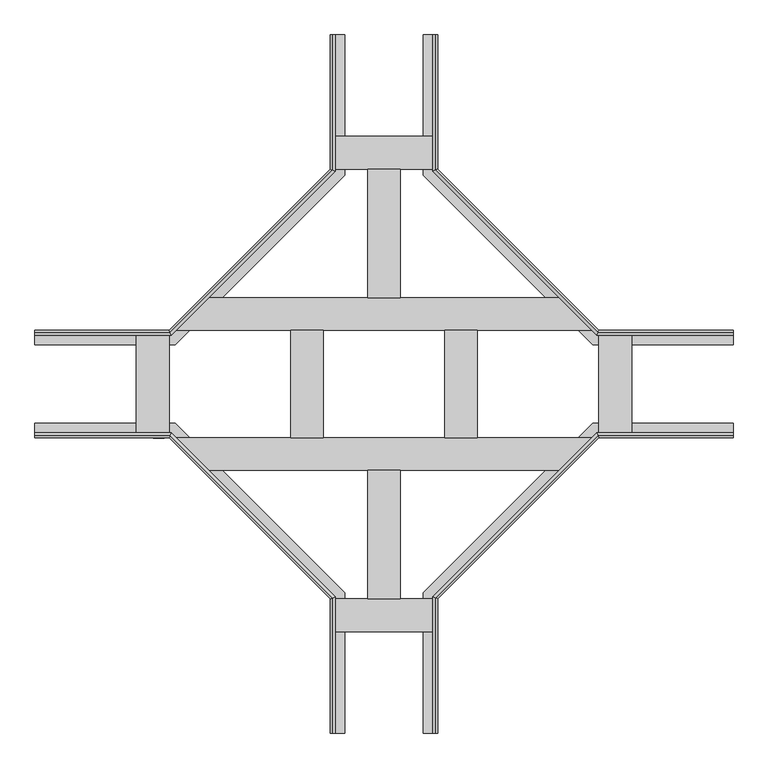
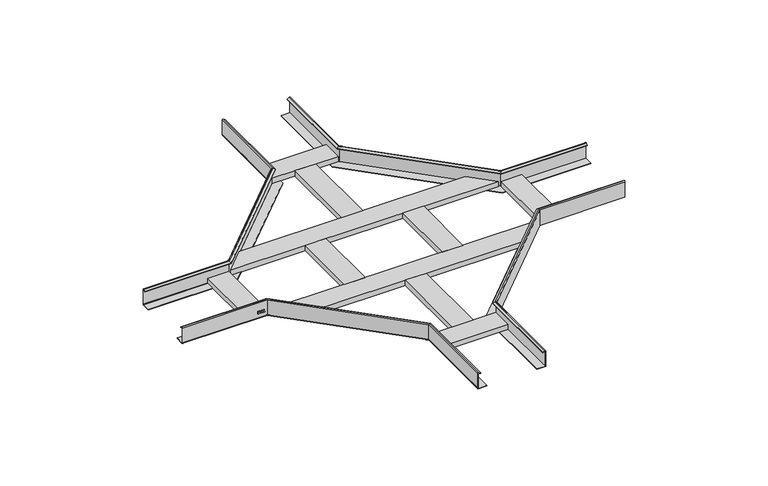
"""IFC4 building model written with IfcOpenShell, lengths in millimetres: cable carrier fitting geometry, КМ Профиль L X-Разветвитель «Быстрый монтаж» : X-Разветвитель «Быстрый монтаж»."""

from ifc_helpers import new_model, si_unit, frame, origin, place, context, project, spatial, polyline, circle_curve, ellipse_curve, outline, extrude, source, transform, mapped, element, save
from ifc_brep_helpers import plane_surface, cylinder_surface, revolved_surface, advanced_brep


def cable_carrier_fitting_a40b3fd0(model_context):
    return source(origin(), model_context, "Body", "SolidModel", [
        extrude(outline(polyline([(-1.986157, -429.2388781), (-9.737421, -429.2388781), (-9.737421, -425.6630512), (-6.5720802, -425.6630512), (-9.737421, -423.9588467), (-9.737421, -420.0604353), (-6.194034, -421.9277444), (-5.5086619, -424.1694955), (-1.986157, -421.703011), (-1.986157, -423.8289757), (-5.564509, -425.7316192), (-1.986157, -425.7316192), (-1.986157, -429.2388781)])), frame((0.0, -100.8, 0.0), z_axis=(0.0, 1.0, 0.0), x_axis=(0.0, 0.0, 1.0)), (0.0, 0.0, 1.0), 0.8),
        extrude(outline(polyline([(-9.737421, -417.9962759), (-5.0696135, -417.6126012), (-9.7434681, -416.2045824), (-9.7434681, -414.7300717), (-5.0541919, -413.2500032), (-9.7429915, -412.7725105), (-9.7429915, -408.8700699), (-1.9623682, -410.0615674), (-1.9623682, -413.2555223), (-5.0390232, -414.2768297), (-1.9647569, -415.0433304), (-1.9647569, -418.0740589), (-9.737421, -419.8943395), (-9.737421, -417.9962759)])), frame((0.0, -100.8, 0.0), z_axis=(0.0, 1.0, 0.0), x_axis=(0.0, 0.0, 1.0)), (0.0, 0.0, 1.0), 0.8),
        extrude(outline(polyline([(-400.0, -97.0), (-461.0, -97.0), (-461.0, 97.0), (-400.0, 97.0), (-400.0, -97.0)])), frame((0.0, 0.0, -23.5), z_axis=(0.0, 0.0, 1.0), x_axis=(1.0, 0.0, 0.0)), (0.0, 0.0, 1.0), 16.0),
        extrude(outline(polyline([(461.0, -97.0), (400.0, -97.0), (400.0, 97.0), (461.0, 97.0), (461.0, -97.0)])), frame((0.0, 0.0, -23.5), z_axis=(0.0, 0.0, 1.0), x_axis=(1.0, 0.0, 0.0)), (0.0, 0.0, 1.0), 16.0),
        extrude(outline(polyline([(-113.0, 100.0), (-113.0, -100.0), (-174.0, -100.0), (-174.0, 100.0), (-113.0, 100.0)])), frame((0.0, 0.0, -23.5), z_axis=(0.0, 0.0, 1.0), x_axis=(1.0, 0.0, 0.0)), (0.0, 0.0, 1.0), 16.0),
        extrude(outline(polyline([(113.0, -100.0), (113.0, 100.0), (174.0, 100.0), (174.0, -100.0), (113.0, -100.0)])), frame((0.0, 0.0, -23.5), z_axis=(0.0, 0.0, 1.0), x_axis=(1.0, 0.0, 0.0)), (0.0, 0.0, 1.0), 16.0),
        extrude(outline(polyline([(-30.5, 161.0), (-30.5, 400.0), (30.5, 400.0), (30.5, 161.0), (-30.5, 161.0)])), frame((0.0, 0.0, -23.5), z_axis=(0.0, 0.0, 1.0), x_axis=(1.0, 0.0, 0.0)), (0.0, 0.0, 1.0), 16.0),
        extrude(outline(polyline([(30.5, -161.0), (30.5, -400.0), (-30.5, -400.0), (-30.5, -161.0), (30.5, -161.0)])), frame((0.0, 0.0, -23.5), z_axis=(0.0, 0.0, 1.0), x_axis=(1.0, 0.0, 0.0)), (0.0, 0.0, 1.0), 16.0),
        extrude(outline(polyline([(331.9289322, 161.0), (392.9289322, 100.0), (-392.9289322, 100.0), (-331.9289322, 161.0), (331.9289322, 161.0)])), frame((0.0, 0.0, -23.5), z_axis=(0.0, 0.0, 1.0), x_axis=(1.0, 0.0, 0.0)), (0.0, 0.0, 1.0), 16.0),
        extrude(outline(polyline([(-97.0, -400.0), (97.0, -400.0), (97.0, -461.0), (-97.0, -461.0), (-97.0, -400.0)])), frame((0.0, 0.0, -23.5), z_axis=(0.0, 0.0, 1.0), x_axis=(1.0, 0.0, 0.0)), (0.0, 0.0, 1.0), 16.0),
        extrude(outline(polyline([(-97.0, 400.0), (-97.0, 461.0), (97.0, 461.0), (97.0, 400.0), (-97.0, 400.0)])), frame((0.0, 0.0, -23.5), z_axis=(0.0, 0.0, 1.0), x_axis=(1.0, 0.0, 0.0)), (0.0, 0.0, 1.0), 16.0),
        extrude(outline(polyline([(331.9289322, -161.0), (-331.9289322, -161.0), (-392.9289322, -100.0), (392.9289322, -100.0), (331.9289322, -161.0)])), frame((0.0, 0.0, -23.5), z_axis=(0.0, 0.0, 1.0), x_axis=(1.0, 0.0, 0.0)), (0.0, 0.0, 1.0), 16.0),
        advanced_brep(
        [(-97.5, 650.0, -23.5), (-73.0, 650.0, -23.5), (-73.0, 650.0, -25.0), (-97.8, 650.0, -25.0), (-100.0, 650.0, -22.8), (-100.0, 650.0, 22.8), (-96.7671626, 650.0, 24.7424847), (-91.0, 650.0, 21.67603), (-91.0, 650.0, 19.9771749), (-97.0305284, 650.0, 23.1836637), (-98.5, 650.0, 22.3007162), (-98.5, 650.0, -22.5), (-97.5, 398.9644661, -23.5), (-398.9644661, 97.5, -23.5), (-650.0, 97.5, -23.5), (-650.0, 73.0, -23.5), (-388.8162338, 73.0, -23.5), (-73.0, 388.8162338, -23.5), (-73.0, 388.8162338, -25.0), (-388.8162338, 73.0, -25.0), (-650.0, 73.0, -25.0), (-650.0, 97.8, -25.0), (-399.0887302, 97.8, -25.0), (-97.8, 399.0887302, -25.0), (-100.0, 400.0, -22.8), (-100.0, 400.0, 22.8), (-96.7671626, 398.6609149, 24.7424847), (-91.0, 396.2720779, 21.67603), (-91.0, 396.2720779, 19.9771749), (-97.0305284, 398.7700046, 23.1836637), (-98.5, 399.3786797, 22.3007162), (-98.5, 399.3786797, -22.5), (-400.0, 100.0, -22.8), (-400.0, 100.0, 22.8), (-398.6609149, 96.7671626, 24.7424847), (-396.2720779, 91.0, 21.67603), (-396.2720779, 91.0, 19.9771749), (-398.7700046, 97.0305284, 23.1836637), (-399.3786797, 98.5, 22.3007162), (-399.3786797, 98.5, -22.5), (-650.0, 98.5, -22.5), (-650.0, 98.5, 22.3007162), (-650.0, 97.0305284, 23.1836637), (-650.0, 91.0, 19.9771749), (-650.0, 91.0, 21.67603), (-650.0, 96.7671626, 24.7424847), (-650.0, 100.0, 22.8), (-650.0, 100.0, -22.8)],
        [
            (0, 1),
            (1, 2),
            (2, 3),
            (3, 4, circle_curve(frame((-97.8, 650.0, -22.8), z_axis=(0.0, 1.0, 0.0), x_axis=(1.0, 0.0, 0.0)), 2.2)),
            (4, 5),
            (5, 6, circle_curve(frame((-97.8, 650.0, 22.8), z_axis=(0.0, 1.0, 0.0), x_axis=(1.0, 0.0, 0.0)), 2.2)),
            (6, 7),
            (7, 8),
            (8, 9),
            (9, 10, circle_curve(frame((-97.5, 650.0, 22.3007162), z_axis=(0.0, -1.0, 0.0), x_axis=(1.0, 0.0, 0.0)), 1.0)),
            (10, 11),
            (11, 0, circle_curve(frame((-97.5, 650.0, -22.5), z_axis=(0.0, -1.0, 0.0), x_axis=(1.0, 0.0, 0.0)), 1.0)),
            (0, 12),
            (12, 13),
            (13, 14),
            (14, 15),
            (15, 16),
            (16, 17),
            (17, 1),
            (17, 18),
            (18, 2),
            (18, 19),
            (19, 20),
            (20, 21),
            (21, 22),
            (22, 23),
            (23, 3),
            (23, 24, ellipse_curve(frame((-97.8, 399.0887302, -22.8), z_axis=(0.38268343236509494, 0.9238795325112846, 0.0), x_axis=(-0.9238795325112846, 0.38268343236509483, 0.0)), 2.3812628, 2.2)),
            (24, 4),
            (24, 25),
            (25, 5),
            (25, 26, ellipse_curve(frame((-97.8, 399.0887302, 22.8), z_axis=(0.38268343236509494, 0.9238795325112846, 0.0), x_axis=(-0.9238795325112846, 0.38268343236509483, 0.0)), 2.3812628, 2.2)),
            (26, 6),
            (26, 27),
            (27, 7),
            (27, 28),
            (28, 8),
            (28, 29),
            (29, 9),
            (29, 30, ellipse_curve(frame((-97.5, 398.9644661, 22.3007162), z_axis=(-0.38268343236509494, -0.9238795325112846, 0.0), x_axis=(0.9238795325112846, -0.38268343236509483, 0.0)), 1.0823922, 1.0)),
            (30, 10),
            (30, 31),
            (31, 11),
            (31, 12, ellipse_curve(frame((-97.5, 398.9644661, -22.5), z_axis=(-0.38268343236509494, -0.9238795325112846, 0.0), x_axis=(0.9238795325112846, -0.38268343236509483, 0.0)), 1.0823922, 1.0)),
            (16, 19),
            (22, 32, ellipse_curve(frame((-399.0887302, 97.8, -22.8), z_axis=(0.923879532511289, 0.3826834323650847, 0.0), x_axis=(-0.3826834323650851, 0.9238795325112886, 0.0)), 2.3812628, 2.2)),
            (32, 24),
            (32, 33),
            (33, 25),
            (33, 34, ellipse_curve(frame((-399.0887302, 97.8, 22.8), z_axis=(0.923879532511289, 0.3826834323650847, 0.0), x_axis=(-0.3826834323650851, 0.9238795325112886, 0.0)), 2.3812628, 2.2)),
            (34, 26),
            (34, 35),
            (35, 27),
            (35, 36),
            (36, 28),
            (36, 37),
            (37, 29),
            (37, 38, ellipse_curve(frame((-398.9644661, 97.5, 22.3007162), z_axis=(-0.923879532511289, -0.3826834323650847, 0.0), x_axis=(0.3826834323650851, -0.9238795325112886, 0.0)), 1.0823922, 1.0)),
            (38, 30),
            (38, 39),
            (39, 31),
            (39, 13, ellipse_curve(frame((-398.9644661, 97.5, -22.5), z_axis=(-0.923879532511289, -0.3826834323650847, 0.0), x_axis=(0.3826834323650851, -0.9238795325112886, 0.0)), 1.0823922, 1.0)),
            (14, 40, circle_curve(frame((-650.0, 97.5, -22.5), z_axis=(1.0, 0.0, 0.0), x_axis=(0.0, -1.0, 0.0)), 1.0)),
            (40, 41),
            (41, 42, circle_curve(frame((-650.0, 97.5, 22.3007162), z_axis=(1.0, 0.0, 0.0), x_axis=(0.0, -1.0, 0.0)), 1.0)),
            (42, 43),
            (43, 44),
            (44, 45),
            (45, 46, circle_curve(frame((-650.0, 97.8, 22.8), z_axis=(-1.0, 0.0, 0.0), x_axis=(0.0, -1.0, 0.0)), 2.2)),
            (46, 47),
            (47, 21, circle_curve(frame((-650.0, 97.8, -22.8), z_axis=(-1.0, 0.0, 0.0), x_axis=(0.0, -1.0, 0.0)), 2.2)),
            (20, 15),
            (47, 32),
            (46, 33),
            (45, 34),
            (44, 35),
            (43, 36),
            (42, 37),
            (41, 38),
            (40, 39),
        ],
        [
            plane_surface(frame((-100.0, 650.0, 25.0), z_axis=(0.0, 1.0, 0.0), x_axis=(0.0, 0.0, 1.0))),
            plane_surface(frame((-97.5, 650.0, -23.5), z_axis=(0.0, 0.0, 1.0), x_axis=(0.0, -1.0, 0.0))),
            plane_surface(frame((-73.0, 650.0, -23.5), z_axis=(1.0, 0.0, 0.0), x_axis=(0.0, -1.0, 0.0))),
            plane_surface(frame((-73.0, 650.0, -25.0), z_axis=(0.0, 0.0, -1.0), x_axis=(0.0, -1.0, 0.0))),
            cylinder_surface(frame((-97.8, 650.0, -22.8), z_axis=(0.0, 1.0, 0.0), x_axis=(1.0, 0.0, 0.0)), 2.2),
            plane_surface(frame((-100.0, 650.0, -22.8), z_axis=(-1.0, 0.0, 0.0), x_axis=(0.0, -1.0, 0.0))),
            cylinder_surface(frame((-97.8, 650.0, 22.8), z_axis=(0.0, 1.0, 0.0), x_axis=(1.0, 0.0, 0.0)), 2.2),
            plane_surface(frame((-96.7671626, 650.0, 24.7424847), z_axis=(0.4694715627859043, 0.0, 0.8829475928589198), x_axis=(0.0, -1.0, 0.0))),
            plane_surface(frame((-91.0, 650.0, 21.67603), z_axis=(1.0, 0.0, 0.0), x_axis=(0.0, -1.0, 0.0))),
            plane_surface(frame((-91.0, 650.0, 19.9771749), z_axis=(-0.4694715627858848, 0.0, -0.8829475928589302), x_axis=(0.0, -1.0, 0.0))),
            revolved_surface(polyline([(-96.5, 398.55025253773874, 22.3007162), (-96.5, 650.0, 22.3007162)]), (-97.5, 650.0, 22.3007162), (0.0, -1.0, 0.0)),
            plane_surface(frame((-98.5, 650.0, 22.3007162), z_axis=(1.0, 0.0, 0.0), x_axis=(0.0, -1.0, 0.0))),
            revolved_surface(polyline([(-96.5, 398.55025253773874, -22.5), (-96.5, 650.0, -22.5)]), (-97.5, 650.0, -22.5), (0.0, -1.0, 0.0)),
            plane_surface(frame((-73.0, 388.8162338, -23.5), z_axis=(0.7071067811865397, -0.7071067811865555, 0.0), x_axis=(-0.7071067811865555, -0.7071067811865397, 0.0))),
            cylinder_surface(frame((-98.4443651, 398.4443651, -22.8), z_axis=(0.7071067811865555, 0.7071067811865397, 0.0), x_axis=(0.7071067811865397, -0.7071067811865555, 0.0)), 2.2),
            plane_surface(frame((-100.0, 400.0, -22.8), z_axis=(-0.7071067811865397, 0.7071067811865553, 0.0), x_axis=(-0.7071067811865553, -0.7071067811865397, 0.0))),
            cylinder_surface(frame((-98.4443651, 398.4443651, 22.8), z_axis=(0.7071067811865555, 0.7071067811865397, 0.0), x_axis=(0.7071067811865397, -0.7071067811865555, 0.0)), 2.2),
            plane_surface(frame((-96.7671626, 398.6609149, 24.7424847), z_axis=(0.3319665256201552, -0.33196652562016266, 0.8829475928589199), x_axis=(-0.7071067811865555, -0.7071067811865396, 0.0))),
            plane_surface(frame((-91.0, 396.2720779, 21.67603), z_axis=(0.7071067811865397, -0.7071067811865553, 0.0), x_axis=(-0.7071067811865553, -0.7071067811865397, 0.0))),
            plane_surface(frame((-91.0, 396.2720779, 19.9771749), z_axis=(-0.3319665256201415, 0.33196652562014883, -0.8829475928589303), x_axis=(-0.7071067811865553, -0.7071067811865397, 0.0))),
            revolved_surface(polyline([(-398.5502524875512, 96.49999995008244, 22.3007162), (-96.49999995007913, 398.55025248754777, 22.3007162)]), (-98.232233, 398.232233, 22.3007162), (-0.7071067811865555, -0.7071067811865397, 0.0)),
            plane_surface(frame((-98.5, 399.3786797, 22.3007162), z_axis=(0.7071067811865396, -0.7071067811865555, 0.0), x_axis=(-0.7071067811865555, -0.7071067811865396, 0.0))),
            revolved_surface(polyline([(-398.5502524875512, 96.49999995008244, -22.5), (-96.49999995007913, 398.55025248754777, -22.5)]), (-98.232233, 398.232233, -22.5), (-0.7071067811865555, -0.7071067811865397, 0.0)),
            plane_surface(frame((-650.0, 100.0, 25.0), z_axis=(-1.0, 0.0, 0.0), x_axis=(0.0, 0.0, 1.0))),
            plane_surface(frame((-388.8162338, 73.0, -23.5), z_axis=(0.0, -1.0, 0.0), x_axis=(-1.0, 0.0, 0.0))),
            cylinder_surface(frame((-400.0, 97.8, -22.8), z_axis=(1.0, 0.0, 0.0), x_axis=(0.0, -1.0, 0.0)), 2.2),
            plane_surface(frame((-400.0, 100.0, -22.8), z_axis=(0.0, 1.0, 0.0), x_axis=(-1.0, 0.0, 0.0))),
            cylinder_surface(frame((-400.0, 97.8, 22.8), z_axis=(1.0, 0.0, 0.0), x_axis=(0.0, -1.0, 0.0)), 2.2),
            plane_surface(frame((-398.6609149, 96.7671626, 24.7424847), z_axis=(0.0, -0.46947156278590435, 0.8829475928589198), x_axis=(-1.0, 0.0, 0.0))),
            plane_surface(frame((-396.2720779, 91.0, 21.67603), z_axis=(0.0, -1.0, 0.0), x_axis=(-1.0, 0.0, 0.0))),
            plane_surface(frame((-396.2720779, 91.0, 19.9771749), z_axis=(0.0, 0.46947156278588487, -0.8829475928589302), x_axis=(-1.0, 0.0, 0.0))),
            revolved_surface(polyline([(-650.0, 96.5, 22.3007162), (-398.5502525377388, 96.5, 22.3007162)]), (-400.0, 97.5, 22.3007162), (-1.0, 0.0, 0.0)),
            plane_surface(frame((-399.3786797, 98.5, 22.3007162), z_axis=(0.0, -1.0, 0.0), x_axis=(-1.0, 0.0, 0.0))),
            revolved_surface(polyline([(-650.0, 96.5, -22.5), (-398.5502525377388, 96.5, -22.5)]), (-400.0, 97.5, -22.5), (-1.0, 0.0, 0.0)),
        ],
        [
            (0, [[1, 2, 3, 4, 5, 6, 7, 8, 9, 10, 11, 12]]),
            (1, [[-1, 13, 14, 15, 16, 17, 18, 19]]),
            (2, [[-2, -19, 20, 21]]),
            (3, [[-3, -21, 22, 23, 24, 25, 26, 27]]),
            (4, [[-4, -27, 28, 29]]),
            (5, [[-5, -29, 30, 31]]),
            (6, [[-6, -31, 32, 33]]),
            (7, [[-7, -33, 34, 35]]),
            (8, [[-8, -35, 36, 37]]),
            (9, [[-9, -37, 38, 39]]),
            (10, [[-10, -39, 40, 41]]),
            (11, [[-11, -41, 42, 43]]),
            (12, [[-12, -43, 44, -13]]),
            (13, [[-20, -18, 45, -22]]),
            (14, [[-28, -26, 46, 47]]),
            (15, [[-30, -47, 48, 49]]),
            (16, [[-32, -49, 50, 51]]),
            (17, [[-34, -51, 52, 53]]),
            (18, [[-36, -53, 54, 55]]),
            (19, [[-38, -55, 56, 57]]),
            (20, [[-40, -57, 58, 59]]),
            (21, [[-42, -59, 60, 61]]),
            (22, [[-44, -61, 62, -14]]),
            (23, [[63, 64, 65, 66, 67, 68, 69, 70, 71, -24, 72, -16]]),
            (24, [[-45, -17, -72, -23]]),
            (25, [[-46, -25, -71, 73]]),
            (26, [[-48, -73, -70, 74]]),
            (27, [[-50, -74, -69, 75]]),
            (28, [[-52, -75, -68, 76]]),
            (29, [[-54, -76, -67, 77]]),
            (30, [[-56, -77, -66, 78]]),
            (31, [[-58, -78, -65, 79]]),
            (32, [[-60, -79, -64, 80]]),
            (33, [[-62, -80, -63, -15]]),
        ],
    ),
        advanced_brep(
        [(650.0, 97.0305284, 23.1836637), (650.0, 98.5, 22.3007162), (650.0, 98.5, -23.5), (650.0, 73.0, -23.5), (650.0, 73.0, -25.0), (650.0, 100.0, -25.0), (650.0, 100.0, 22.8), (650.0, 96.7671626, 24.7424847), (650.0, 91.0, 21.67603), (650.0, 91.0, 19.9771749), (398.7700046, 97.0305284, 23.1836637), (399.3786797, 98.5, 22.3007162), (399.3786797, 98.5, -23.5), (98.5, 399.3786797, -23.5), (98.5, 650.0, -23.5), (73.0, 650.0, -23.5), (73.0, 388.8162338, -23.5), (388.8162338, 73.0, -23.5), (388.8162338, 73.0, -25.0), (73.0, 388.8162338, -25.0), (73.0, 650.0, -25.0), (100.0, 650.0, -25.0), (100.0, 400.0, -25.0), (400.0, 100.0, -25.0), (400.0, 100.0, 22.8), (398.6609149, 96.7671626, 24.7424847), (396.2720779, 91.0, 21.67603), (396.2720779, 91.0, 19.9771749), (97.0305284, 398.7700046, 23.1836637), (98.5, 399.3786797, 22.3007162), (100.0, 400.0, 22.8), (96.7671626, 398.6609149, 24.7424847), (91.0, 396.2720779, 21.67603), (91.0, 396.2720779, 19.9771749), (97.0305284, 650.0, 23.1836637), (91.0, 650.0, 19.9771749), (91.0, 650.0, 21.67603), (96.7671626, 650.0, 24.7424847), (100.0, 650.0, 22.8), (98.5, 650.0, 22.3007162)],
        [
            (0, 1, circle_curve(frame((650.0, 97.5, 22.3007162), z_axis=(-1.0, 0.0, 0.0), x_axis=(0.0, -1.0, 0.0)), 1.0)),
            (1, 2),
            (2, 3),
            (3, 4),
            (4, 5),
            (5, 6),
            (6, 7, circle_curve(frame((650.0, 97.8, 22.8), z_axis=(1.0, 0.0, 0.0), x_axis=(0.0, -1.0, 0.0)), 2.2)),
            (7, 8),
            (8, 9),
            (9, 0),
            (0, 10),
            (10, 11, ellipse_curve(frame((398.9644661, 97.5, 22.3007162), z_axis=(-0.9238795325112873, 0.3826834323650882, 0.0), x_axis=(-0.38268343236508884, -0.9238795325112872, 0.0)), 1.0823922, 1.0)),
            (11, 1),
            (11, 12),
            (12, 2),
            (12, 13),
            (13, 14),
            (14, 15),
            (15, 16),
            (16, 17),
            (17, 3),
            (17, 18),
            (18, 4),
            (18, 19),
            (19, 20),
            (20, 21),
            (21, 22),
            (22, 23),
            (23, 5),
            (23, 24),
            (24, 6),
            (24, 25, ellipse_curve(frame((399.0887302, 97.8, 22.8), z_axis=(0.9238795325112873, -0.3826834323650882, 0.0), x_axis=(0.38268343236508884, 0.9238795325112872, 0.0)), 2.3812628, 2.2)),
            (25, 7),
            (25, 26),
            (26, 8),
            (26, 27),
            (27, 9),
            (27, 10),
            (10, 28),
            (28, 29, ellipse_curve(frame((97.5, 398.9644661, 22.3007162), z_axis=(-0.38268343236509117, 0.9238795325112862, 0.0), x_axis=(-0.9238795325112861, -0.3826834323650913, 0.0)), 1.0823922, 1.0)),
            (29, 11),
            (29, 13),
            (16, 19),
            (22, 30),
            (30, 24),
            (30, 31, ellipse_curve(frame((97.8, 399.0887302, 22.8), z_axis=(0.38268343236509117, -0.9238795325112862, 0.0), x_axis=(0.9238795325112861, 0.3826834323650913, 0.0)), 2.3812628, 2.2)),
            (31, 25),
            (31, 32),
            (32, 26),
            (32, 33),
            (33, 27),
            (33, 28),
            (34, 35),
            (35, 36),
            (36, 37),
            (37, 38, circle_curve(frame((97.8, 650.0, 22.8), z_axis=(0.0, 1.0, 0.0), x_axis=(-1.0, 0.0, 0.0)), 2.2)),
            (38, 21),
            (20, 15),
            (14, 39),
            (39, 34, circle_curve(frame((97.5, 650.0, 22.3007162), z_axis=(0.0, -1.0, 0.0), x_axis=(-1.0, 0.0, 0.0)), 1.0)),
            (28, 34),
            (39, 29),
            (38, 30),
            (37, 31),
            (36, 32),
            (35, 33),
        ],
        [
            plane_surface(frame((650.0, 100.0, 25.0), z_axis=(1.0, 0.0, 0.0), x_axis=(0.0, 0.0, 1.0))),
            revolved_surface(polyline([(398.55025253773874, 96.5, 22.3007162), (650.0, 96.5, 22.3007162)]), (650.0, 97.5, 22.3007162), (-1.0, 0.0, 0.0)),
            plane_surface(frame((650.0, 98.5, 22.3007162), z_axis=(0.0, -1.0, 0.0), x_axis=(-1.0, 0.0, 0.0))),
            plane_surface(frame((650.0, 98.5, -23.5), z_axis=(0.0, 0.0, 1.0), x_axis=(-1.0, 0.0, 0.0))),
            plane_surface(frame((650.0, 73.0, -23.5), z_axis=(0.0, -1.0, 0.0), x_axis=(-1.0, 0.0, 0.0))),
            plane_surface(frame((650.0, 73.0, -25.0), z_axis=(0.0, 0.0, -1.0), x_axis=(-1.0, 0.0, 0.0))),
            plane_surface(frame((650.0, 100.0, -25.0), z_axis=(0.0, 1.0, 0.0), x_axis=(-1.0, 0.0, 0.0))),
            cylinder_surface(frame((650.0, 97.8, 22.8), z_axis=(1.0, 0.0, 0.0), x_axis=(0.0, -1.0, 0.0)), 2.2),
            plane_surface(frame((650.0, 96.7671626, 24.7424847), z_axis=(0.0, -0.46947156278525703, 0.8829475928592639), x_axis=(-1.0, 0.0, 0.0))),
            plane_surface(frame((650.0, 91.0, 21.67603), z_axis=(0.0, -1.0, 0.0), x_axis=(-1.0, 0.0, 0.0))),
            plane_surface(frame((650.0, 91.0, 19.9771749), z_axis=(0.0, 0.4694715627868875, -0.882947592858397), x_axis=(-1.0, 0.0, 0.0))),
            revolved_surface(polyline([(96.49999995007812, 398.55025248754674, 22.3007162), (398.55025248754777, 96.49999995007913, 22.3007162)]), (398.232233, 98.232233, 22.3007162), (-0.7071067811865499, 0.7071067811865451, 0.0)),
            plane_surface(frame((399.3786797, 98.5, 22.3007162), z_axis=(-0.707106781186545, -0.7071067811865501, 0.0), x_axis=(-0.7071067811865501, 0.707106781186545, 0.0))),
            plane_surface(frame((388.8162338, 73.0, -23.5), z_axis=(-0.707106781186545, -0.7071067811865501, 0.0), x_axis=(-0.7071067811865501, 0.707106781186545, 0.0))),
            plane_surface(frame((400.0, 100.0, -25.0), z_axis=(0.707106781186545, 0.7071067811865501, 0.0), x_axis=(-0.7071067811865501, 0.707106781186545, 0.0))),
            cylinder_surface(frame((398.4443651, 98.4443651, 22.8), z_axis=(0.7071067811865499, -0.7071067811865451, 0.0), x_axis=(-0.7071067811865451, -0.7071067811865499, 0.0)), 2.2),
            plane_surface(frame((398.6609149, 96.7671626, 24.7424847), z_axis=(-0.3319665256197, -0.3319665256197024, 0.882947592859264), x_axis=(-0.7071067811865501, 0.707106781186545, 0.0))),
            plane_surface(frame((396.2720779, 91.0, 21.67603), z_axis=(-0.707106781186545, -0.70710678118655, 0.0), x_axis=(-0.70710678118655, 0.707106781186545, 0.0))),
            plane_surface(frame((396.2720779, 91.0, 19.9771749), z_axis=(0.331966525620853, 0.3319665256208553, -0.882947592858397), x_axis=(-0.70710678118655, 0.707106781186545, 0.0))),
            plane_surface(frame((100.0, 650.0, 25.0), z_axis=(0.0, 1.0, 0.0), x_axis=(0.0, 0.0, 1.0))),
            revolved_surface(polyline([(96.5, 650.0, 22.3007162), (96.5, 398.5502525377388, 22.3007162)]), (97.5, 400.0, 22.3007162), (0.0, 1.0, 0.0)),
            plane_surface(frame((98.5, 399.3786797, 22.3007162), z_axis=(-1.0, 0.0, 0.0), x_axis=(0.0, 1.0, 0.0))),
            plane_surface(frame((73.0, 388.8162338, -23.5), z_axis=(-1.0, 0.0, 0.0), x_axis=(0.0, 1.0, 0.0))),
            plane_surface(frame((100.0, 400.0, -25.0), z_axis=(1.0, 0.0, 0.0), x_axis=(0.0, 1.0, 0.0))),
            cylinder_surface(frame((97.8, 400.0, 22.8), z_axis=(0.0, -1.0, 0.0), x_axis=(-1.0, 0.0, 0.0)), 2.2),
            plane_surface(frame((96.7671626, 398.6609149, 24.7424847), z_axis=(-0.46947156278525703, 0.0, 0.882947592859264), x_axis=(0.0, 1.0, 0.0))),
            plane_surface(frame((91.0, 396.2720779, 21.67603), z_axis=(-1.0, 0.0, 0.0), x_axis=(0.0, 1.0, 0.0))),
            plane_surface(frame((91.0, 396.2720779, 19.9771749), z_axis=(0.4694715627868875, 0.0, -0.882947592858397), x_axis=(0.0, 1.0, 0.0))),
        ],
        [
            (0, [[1, 2, 3, 4, 5, 6, 7, 8, 9, 10]]),
            (1, [[-1, 11, 12, 13]]),
            (2, [[-2, -13, 14, 15]]),
            (3, [[-3, -15, 16, 17, 18, 19, 20, 21]]),
            (4, [[-4, -21, 22, 23]]),
            (5, [[-5, -23, 24, 25, 26, 27, 28, 29]]),
            (6, [[-6, -29, 30, 31]]),
            (7, [[-7, -31, 32, 33]]),
            (8, [[-8, -33, 34, 35]]),
            (9, [[-9, -35, 36, 37]]),
            (10, [[-10, -37, 38, -11]]),
            (11, [[-12, 39, 40, 41]]),
            (12, [[-14, -41, 42, -16]]),
            (13, [[-22, -20, 43, -24]]),
            (14, [[-30, -28, 44, 45]]),
            (15, [[-32, -45, 46, 47]]),
            (16, [[-34, -47, 48, 49]]),
            (17, [[-36, -49, 50, 51]]),
            (18, [[-38, -51, 52, -39]]),
            (19, [[53, 54, 55, 56, 57, -26, 58, -18, 59, 60]]),
            (20, [[-40, 61, -60, 62]]),
            (21, [[-42, -62, -59, -17]]),
            (22, [[-43, -19, -58, -25]]),
            (23, [[-44, -27, -57, 63]]),
            (24, [[-46, -63, -56, 64]]),
            (25, [[-48, -64, -55, 65]]),
            (26, [[-50, -65, -54, 66]]),
            (27, [[-52, -66, -53, -61]]),
        ],
    ),
        advanced_brep(
        [(73.0, -650.0, -25.0), (100.0, -650.0, -25.0), (100.0, -650.0, 22.8), (96.7671626, -650.0, 24.7424847), (91.0, -650.0, 21.67603), (91.0, -650.0, 19.9771749), (97.0305284, -650.0, 23.1836637), (98.5, -650.0, 22.3007162), (98.5, -650.0, -23.5), (73.0, -650.0, -23.5), (73.0, -388.8162338, -25.0), (388.8162338, -73.0, -25.0), (650.0, -73.0, -25.0), (650.0, -100.0, -25.0), (400.0, -100.0, -25.0), (100.0, -400.0, -25.0), (100.0, -400.0, 22.8), (96.7671626, -398.6609149, 24.7424847), (91.0, -396.2720779, 21.67603), (91.0, -396.2720779, 19.9771749), (97.0305284, -398.7700046, 23.1836637), (98.5, -399.3786797, 22.3007162), (98.5, -399.3786797, -23.5), (399.3786797, -98.5, -23.5), (650.0, -98.5, -23.5), (650.0, -73.0, -23.5), (388.8162338, -73.0, -23.5), (73.0, -388.8162338, -23.5), (400.0, -100.0, 22.8), (398.6609149, -96.7671626, 24.7424847), (396.2720779, -91.0, 21.67603), (396.2720779, -91.0, 19.9771749), (398.7700046, -97.0305284, 23.1836637), (399.3786797, -98.5, 22.3007162), (650.0, -98.5, 22.3007162), (650.0, -97.0305284, 23.1836637), (650.0, -91.0, 19.9771749), (650.0, -91.0, 21.67603), (650.0, -96.7671626, 24.7424847), (650.0, -100.0, 22.8)],
        [
            (0, 1),
            (1, 2),
            (2, 3, circle_curve(frame((97.8, -650.0, 22.8), z_axis=(0.0, -1.0, 0.0), x_axis=(-1.0, 0.0, 0.0)), 2.2)),
            (3, 4),
            (4, 5),
            (5, 6),
            (6, 7, circle_curve(frame((97.5, -650.0, 22.3007162), z_axis=(0.0, 1.0, 0.0), x_axis=(-1.0, 0.0, 0.0)), 1.0)),
            (7, 8),
            (8, 9),
            (9, 0),
            (0, 10),
            (10, 11),
            (11, 12),
            (12, 13),
            (13, 14),
            (14, 15),
            (15, 1),
            (15, 16),
            (16, 2),
            (16, 17, ellipse_curve(frame((97.8, -399.0887302, 22.8), z_axis=(-0.38268343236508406, -0.9238795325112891, 0.0), x_axis=(0.9238795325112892, -0.3826834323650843, 0.0)), 2.3812628, 2.2)),
            (17, 3),
            (17, 18),
            (18, 4),
            (18, 19),
            (19, 5),
            (19, 20),
            (20, 6),
            (20, 21, ellipse_curve(frame((97.5, -398.9644661, 22.3007162), z_axis=(0.38268343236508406, 0.9238795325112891, 0.0), x_axis=(-0.9238795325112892, 0.3826834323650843, 0.0)), 1.0823922, 1.0)),
            (21, 7),
            (21, 22),
            (22, 8),
            (22, 23),
            (23, 24),
            (24, 25),
            (25, 26),
            (26, 27),
            (27, 9),
            (27, 10),
            (14, 28),
            (28, 16),
            (28, 29, ellipse_curve(frame((399.0887302, -97.8, 22.8), z_axis=(-0.9238795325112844, -0.38268343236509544, 0.0), x_axis=(0.3826834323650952, -0.9238795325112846, 0.0)), 2.3812628, 2.2)),
            (29, 17),
            (29, 30),
            (30, 18),
            (30, 31),
            (31, 19),
            (31, 32),
            (32, 20),
            (32, 33, ellipse_curve(frame((398.9644661, -97.5, 22.3007162), z_axis=(0.9238795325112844, 0.38268343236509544, 0.0), x_axis=(-0.3826834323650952, 0.9238795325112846, 0.0)), 1.0823922, 1.0)),
            (33, 21),
            (33, 23),
            (26, 11),
            (12, 25),
            (24, 34),
            (34, 35, circle_curve(frame((650.0, -97.5, 22.3007162), z_axis=(-1.0, 0.0, 0.0), x_axis=(0.0, 1.0, 0.0)), 1.0)),
            (35, 36),
            (36, 37),
            (37, 38),
            (38, 39, circle_curve(frame((650.0, -97.8, 22.8), z_axis=(1.0, 0.0, 0.0), x_axis=(0.0, 1.0, 0.0)), 2.2)),
            (39, 13),
            (39, 28),
            (38, 29),
            (37, 30),
            (36, 31),
            (35, 32),
            (34, 33),
        ],
        [
            plane_surface(frame((100.0, -650.0, 25.0), z_axis=(0.0, -1.0, 0.0), x_axis=(0.0, 0.0, 1.0))),
            plane_surface(frame((73.0, -650.0, -25.0), z_axis=(0.0, 0.0, -1.0), x_axis=(0.0, 1.0, 0.0))),
            plane_surface(frame((100.0, -650.0, -25.0), z_axis=(1.0, 0.0, 0.0), x_axis=(0.0, 1.0, 0.0))),
            cylinder_surface(frame((97.8, -650.0, 22.8), z_axis=(0.0, -1.0, 0.0), x_axis=(-1.0, 0.0, 0.0)), 2.2),
            plane_surface(frame((96.7671626, -650.0, 24.7424847), z_axis=(-0.46947156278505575, 0.0, 0.882947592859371), x_axis=(0.0, 1.0, 0.0))),
            plane_surface(frame((91.0, -650.0, 21.67603), z_axis=(-1.0, 0.0, 0.0), x_axis=(0.0, 1.0, 0.0))),
            plane_surface(frame((91.0, -650.0, 19.9771749), z_axis=(0.46947156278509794, 0.0, -0.8829475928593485), x_axis=(0.0, 1.0, 0.0))),
            revolved_surface(polyline([(96.5, -398.5502525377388, 22.3007162), (96.5, -650.0, 22.3007162)]), (97.5, -650.0, 22.3007162), (0.0, 1.0, 0.0)),
            plane_surface(frame((98.5, -650.0, 22.3007162), z_axis=(-1.0, 0.0, 0.0), x_axis=(0.0, 1.0, 0.0))),
            plane_surface(frame((98.5, -650.0, -23.5), z_axis=(0.0, 0.0, 1.0), x_axis=(0.0, 1.0, 0.0))),
            plane_surface(frame((73.0, -650.0, -23.5), z_axis=(-1.0, 0.0, 0.0), x_axis=(0.0, 1.0, 0.0))),
            plane_surface(frame((100.0, -400.0, -25.0), z_axis=(0.7071067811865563, -0.7071067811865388, 0.0), x_axis=(0.7071067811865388, 0.7071067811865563, 0.0))),
            cylinder_surface(frame((98.4443651, -398.4443651, 22.8), z_axis=(-0.7071067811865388, -0.7071067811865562, 0.0), x_axis=(-0.7071067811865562, 0.7071067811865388, 0.0)), 2.2),
            plane_surface(frame((96.7671626, -398.6609149, 24.7424847), z_axis=(-0.331966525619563, 0.3319665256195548, 0.882947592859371), x_axis=(0.7071067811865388, 0.7071067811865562, 0.0))),
            plane_surface(frame((91.0, -396.2720779, 21.67603), z_axis=(-0.7071067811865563, 0.7071067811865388, 0.0), x_axis=(0.7071067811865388, 0.7071067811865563, 0.0))),
            plane_surface(frame((91.0, -396.2720779, 19.9771749), z_axis=(0.3319665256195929, -0.3319665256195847, -0.8829475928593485), x_axis=(0.7071067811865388, 0.7071067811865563, 0.0))),
            revolved_surface(polyline([(398.55025248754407, -96.49999995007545, 22.3007162), (96.49999995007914, -398.55025248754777, 22.3007162)]), (98.232233, -398.232233, 22.3007162), (0.7071067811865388, 0.7071067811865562, 0.0)),
            plane_surface(frame((98.5, -399.3786797, 22.3007162), z_axis=(-0.7071067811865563, 0.7071067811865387, 0.0), x_axis=(0.7071067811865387, 0.7071067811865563, 0.0))),
            plane_surface(frame((73.0, -388.8162338, -23.5), z_axis=(-0.7071067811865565, 0.7071067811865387, 0.0), x_axis=(0.7071067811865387, 0.7071067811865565, 0.0))),
            plane_surface(frame((650.0, -100.0, 25.0), z_axis=(1.0, 0.0, 0.0), x_axis=(0.0, 0.0, 1.0))),
            plane_surface(frame((400.0, -100.0, -25.0), z_axis=(0.0, -1.0, 0.0), x_axis=(1.0, 0.0, 0.0))),
            cylinder_surface(frame((400.0, -97.8, 22.8), z_axis=(-1.0, 0.0, 0.0), x_axis=(0.0, 1.0, 0.0)), 2.2),
            plane_surface(frame((398.6609149, -96.7671626, 24.7424847), z_axis=(0.0, 0.46947156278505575, 0.882947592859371), x_axis=(1.0, 0.0, 0.0))),
            plane_surface(frame((396.2720779, -91.0, 21.67603), z_axis=(0.0, 1.0, 0.0), x_axis=(1.0, 0.0, 0.0))),
            plane_surface(frame((396.2720779, -91.0, 19.9771749), z_axis=(0.0, -0.46947156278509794, -0.8829475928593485), x_axis=(1.0, 0.0, 0.0))),
            revolved_surface(polyline([(650.0, -96.5, 22.3007162), (398.5502525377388, -96.5, 22.3007162)]), (400.0, -97.5, 22.3007162), (1.0, 0.0, 0.0)),
            plane_surface(frame((399.3786797, -98.5, 22.3007162), z_axis=(0.0, 1.0, 0.0), x_axis=(1.0, 0.0, 0.0))),
            plane_surface(frame((388.8162338, -73.0, -23.5), z_axis=(0.0, 1.0, 0.0), x_axis=(1.0, 0.0, 0.0))),
        ],
        [
            (0, [[1, 2, 3, 4, 5, 6, 7, 8, 9, 10]]),
            (1, [[-1, 11, 12, 13, 14, 15, 16, 17]]),
            (2, [[-2, -17, 18, 19]]),
            (3, [[-3, -19, 20, 21]]),
            (4, [[-4, -21, 22, 23]]),
            (5, [[-5, -23, 24, 25]]),
            (6, [[-6, -25, 26, 27]]),
            (7, [[-7, -27, 28, 29]]),
            (8, [[-8, -29, 30, 31]]),
            (9, [[-9, -31, 32, 33, 34, 35, 36, 37]]),
            (10, [[-10, -37, 38, -11]]),
            (11, [[-18, -16, 39, 40]]),
            (12, [[-20, -40, 41, 42]]),
            (13, [[-22, -42, 43, 44]]),
            (14, [[-24, -44, 45, 46]]),
            (15, [[-26, -46, 47, 48]]),
            (16, [[-28, -48, 49, 50]]),
            (17, [[-30, -50, 51, -32]]),
            (18, [[-38, -36, 52, -12]]),
            (19, [[53, -34, 54, 55, 56, 57, 58, 59, 60, -14]]),
            (20, [[-39, -15, -60, 61]]),
            (21, [[-41, -61, -59, 62]]),
            (22, [[-43, -62, -58, 63]]),
            (23, [[-45, -63, -57, 64]]),
            (24, [[-47, -64, -56, 65]]),
            (25, [[-49, -65, -55, 66]]),
            (26, [[-51, -66, -54, -33]]),
            (27, [[-52, -35, -53, -13]]),
        ],
    ),
        advanced_brep(
        [(-650.0, -73.0, -23.5), (-650.0, -73.0, -25.0), (-650.0, -97.8, -25.0), (-650.0, -100.0, -22.8), (-650.0, -100.0, 22.8), (-650.0, -96.7671626, 24.7424847), (-650.0, -91.0, 21.67603), (-650.0, -91.0, 19.9771749), (-650.0, -97.0305284, 23.1836637), (-650.0, -98.5, 22.3007162), (-650.0, -98.5, -22.5), (-650.0, -97.5, -23.5), (-388.8162338, -73.0, -23.5), (-388.8162338, -73.0, -25.0), (-73.0, -388.8162338, -25.0), (-73.0, -650.0, -25.0), (-97.8, -650.0, -25.0), (-97.8, -399.0887302, -25.0), (-399.0887302, -97.8, -25.0), (-400.0, -100.0, -22.8), (-400.0, -100.0, 22.8), (-399.3786797, -98.5, 22.3007162), (-399.3786797, -98.5, -22.5), (-398.9644661, -97.5, -23.5), (-97.5, -398.9644661, -23.5), (-97.5, -650.0, -23.5), (-73.0, -650.0, -23.5), (-73.0, -388.8162338, -23.5), (-100.0, -400.0, -22.8), (-100.0, -400.0, 22.8), (-98.5, -399.3786797, 22.3007162), (-98.5, -399.3786797, -22.5), (-98.5, -650.0, -22.5), (-98.5, -650.0, 22.3007162), (-97.0305284, -650.0, 23.1836637), (-91.0, -650.0, 19.9771749), (-91.0, -650.0, 21.67603), (-96.7671626, -650.0, 24.7424847), (-100.0, -650.0, 22.8), (-100.0, -650.0, -22.8), (-398.6609149, -96.7671626, 24.7424847), (-396.2720779, -91.0, 21.67603), (-396.2720779, -91.0, 19.9771749), (-398.7700046, -97.0305284, 23.1836637), (-96.7671626, -398.6609149, 24.7424847), (-91.0, -396.2720779, 21.67603), (-91.0, -396.2720779, 19.9771749), (-97.0305284, -398.7700046, 23.1836637)],
        [
            (0, 1),
            (1, 2),
            (2, 3, circle_curve(frame((-650.0, -97.8, -22.8), z_axis=(-1.0, 0.0, 0.0), x_axis=(0.0, 1.0, 0.0)), 2.2)),
            (3, 4),
            (4, 5, circle_curve(frame((-650.0, -97.8, 22.8), z_axis=(-1.0, 0.0, 0.0), x_axis=(0.0, 1.0, 0.0)), 2.2)),
            (5, 6),
            (6, 7),
            (7, 8),
            (8, 9, circle_curve(frame((-650.0, -97.5, 22.3007162), z_axis=(1.0, 0.0, 0.0), x_axis=(0.0, 1.0, 0.0)), 1.0)),
            (9, 10),
            (10, 11, circle_curve(frame((-650.0, -97.5, -22.5), z_axis=(1.0, 0.0, 0.0), x_axis=(0.0, 1.0, 0.0)), 1.0)),
            (11, 0),
            (0, 12),
            (12, 13),
            (13, 1),
            (13, 14),
            (14, 15),
            (15, 16),
            (16, 17),
            (17, 18),
            (18, 2),
            (18, 19, ellipse_curve(frame((-399.0887302, -97.8, -22.8), z_axis=(-0.9238795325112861, 0.38268343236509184, 0.0), x_axis=(-0.3826834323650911, -0.9238795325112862, 0.0)), 2.3812628, 2.2)),
            (19, 3),
            (19, 20),
            (20, 4),
            (9, 21),
            (21, 22),
            (22, 10),
            (22, 23, ellipse_curve(frame((-398.9644661, -97.5, -22.5), z_axis=(0.9238795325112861, -0.38268343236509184, 0.0), x_axis=(0.3826834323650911, 0.9238795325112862, 0.0)), 1.0823922, 1.0)),
            (23, 11),
            (23, 24),
            (24, 25),
            (25, 26),
            (26, 27),
            (27, 12),
            (27, 14),
            (17, 28, ellipse_curve(frame((-97.8, -399.0887302, -22.8), z_axis=(-0.3826834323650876, 0.9238795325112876, 0.0), x_axis=(-0.9238795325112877, -0.3826834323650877, 0.0)), 2.3812628, 2.2)),
            (28, 19),
            (28, 29),
            (29, 20),
            (21, 30),
            (30, 31),
            (31, 22),
            (31, 24, ellipse_curve(frame((-97.5, -398.9644661, -22.5), z_axis=(0.3826834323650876, -0.9238795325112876, 0.0), x_axis=(0.9238795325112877, 0.3826834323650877, 0.0)), 1.0823922, 1.0)),
            (25, 32, circle_curve(frame((-97.5, -650.0, -22.5), z_axis=(0.0, 1.0, 0.0), x_axis=(1.0, 0.0, 0.0)), 1.0)),
            (32, 33),
            (33, 34, circle_curve(frame((-97.5, -650.0, 22.3007162), z_axis=(0.0, 1.0, 0.0), x_axis=(1.0, 0.0, 0.0)), 1.0)),
            (34, 35),
            (35, 36),
            (36, 37),
            (37, 38, circle_curve(frame((-97.8, -650.0, 22.8), z_axis=(0.0, -1.0, 0.0), x_axis=(1.0, 0.0, 0.0)), 2.2)),
            (38, 39),
            (39, 16, circle_curve(frame((-97.8, -650.0, -22.8), z_axis=(0.0, -1.0, 0.0), x_axis=(1.0, 0.0, 0.0)), 2.2)),
            (15, 26),
            (39, 28),
            (38, 29),
            (30, 33),
            (32, 31),
            (20, 40, ellipse_curve(frame((-399.0887302, -97.8, 22.8), z_axis=(-0.9238795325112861, 0.38268343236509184, 0.0), x_axis=(-0.3826834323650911, -0.9238795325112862, 0.0)), 2.3812628, 2.2)),
            (40, 5),
            (40, 41),
            (41, 6),
            (41, 42),
            (42, 7),
            (42, 43),
            (43, 8),
            (43, 21, ellipse_curve(frame((-398.9644661, -97.5, 22.3007162), z_axis=(0.9238795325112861, -0.38268343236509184, 0.0), x_axis=(0.3826834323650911, 0.9238795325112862, 0.0)), 1.0823922, 1.0)),
            (29, 44, ellipse_curve(frame((-97.8, -399.0887302, 22.8), z_axis=(-0.3826834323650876, 0.9238795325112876, 0.0), x_axis=(-0.9238795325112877, -0.3826834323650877, 0.0)), 2.3812628, 2.2)),
            (44, 40),
            (44, 45),
            (45, 41),
            (45, 46),
            (46, 42),
            (46, 47),
            (47, 43),
            (47, 30, ellipse_curve(frame((-97.5, -398.9644661, 22.3007162), z_axis=(0.3826834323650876, -0.9238795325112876, 0.0), x_axis=(0.9238795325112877, 0.3826834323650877, 0.0)), 1.0823922, 1.0)),
            (37, 44),
            (36, 45),
            (35, 46),
            (34, 47),
        ],
        [
            plane_surface(frame((-650.0, -100.0, 25.0), z_axis=(-1.0, 0.0, 0.0), x_axis=(0.0, 0.0, 1.0))),
            plane_surface(frame((-650.0, -73.0, -23.5), z_axis=(0.0, 1.0, 0.0), x_axis=(1.0, 0.0, 0.0))),
            plane_surface(frame((-650.0, -73.0, -25.0), z_axis=(0.0, 0.0, -1.0), x_axis=(1.0, 0.0, 0.0))),
            cylinder_surface(frame((-650.0, -97.8, -22.8), z_axis=(-1.0, 0.0, 0.0), x_axis=(0.0, 1.0, 0.0)), 2.2),
            plane_surface(frame((-650.0, -100.0, -22.8), z_axis=(0.0, -1.0, 0.0), x_axis=(1.0, 0.0, 0.0))),
            plane_surface(frame((-650.0, -98.5, 22.3007162), z_axis=(0.0, 1.0, 0.0), x_axis=(1.0, 0.0, 0.0))),
            revolved_surface(polyline([(-398.55025253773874, -96.5, -22.5), (-650.0, -96.5, -22.5)]), (-650.0, -97.5, -22.5), (1.0, 0.0, 0.0)),
            plane_surface(frame((-650.0, -97.5, -23.5), z_axis=(0.0, 0.0, 1.0), x_axis=(1.0, 0.0, 0.0))),
            plane_surface(frame((-388.8162338, -73.0, -23.5), z_axis=(0.7071067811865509, 0.7071067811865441, 0.0), x_axis=(0.7071067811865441, -0.7071067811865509, 0.0))),
            cylinder_surface(frame((-398.4443651, -98.4443651, -22.8), z_axis=(-0.7071067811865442, 0.7071067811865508, 0.0), x_axis=(0.7071067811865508, 0.7071067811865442, 0.0)), 2.2),
            plane_surface(frame((-400.0, -100.0, -22.8), z_axis=(-0.7071067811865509, -0.7071067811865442, 0.0), x_axis=(0.7071067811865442, -0.7071067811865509, 0.0))),
            plane_surface(frame((-399.3786797, -98.5, 22.3007162), z_axis=(0.7071067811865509, 0.7071067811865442, 0.0), x_axis=(0.7071067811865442, -0.7071067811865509, 0.0))),
            revolved_surface(polyline([(-96.49999995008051, -398.5502524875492, -22.5), (-398.55025248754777, -96.49999995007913, -22.5)]), (-398.232233, -98.232233, -22.5), (0.7071067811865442, -0.7071067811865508, 0.0)),
            plane_surface(frame((-100.0, -650.0, 25.0), z_axis=(0.0, -1.0, 0.0), x_axis=(0.0, 0.0, 1.0))),
            plane_surface(frame((-73.0, -388.8162338, -23.5), z_axis=(1.0, 0.0, 0.0), x_axis=(0.0, -1.0, 0.0))),
            cylinder_surface(frame((-97.8, -400.0, -22.8), z_axis=(0.0, 1.0, 0.0), x_axis=(1.0, 0.0, 0.0)), 2.2),
            plane_surface(frame((-100.0, -400.0, -22.8), z_axis=(-1.0, 0.0, 0.0), x_axis=(0.0, -1.0, 0.0))),
            plane_surface(frame((-98.5, -399.3786797, 22.3007162), z_axis=(1.0, 0.0, 0.0), x_axis=(0.0, -1.0, 0.0))),
            revolved_surface(polyline([(-96.5, -650.0, -22.5), (-96.5, -398.5502525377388, -22.5)]), (-97.5, -400.0, -22.5), (0.0, -1.0, 0.0)),
            cylinder_surface(frame((-650.0, -97.8, 22.8), z_axis=(-1.0, 0.0, 0.0), x_axis=(0.0, 1.0, 0.0)), 2.2),
            plane_surface(frame((-650.0, -96.7671626, 24.7424847), z_axis=(0.0, 0.4694715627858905, 0.8829475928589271), x_axis=(1.0, 0.0, 0.0))),
            plane_surface(frame((-650.0, -91.0, 21.67603), z_axis=(0.0, 1.0, 0.0), x_axis=(1.0, 0.0, 0.0))),
            plane_surface(frame((-650.0, -91.0, 19.9771749), z_axis=(0.0, -0.4694715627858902, -0.8829475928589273), x_axis=(1.0, 0.0, 0.0))),
            revolved_surface(polyline([(-398.55025253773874, -96.5, 22.3007162), (-650.0, -96.5, 22.3007162)]), (-650.0, -97.5, 22.3007162), (1.0, 0.0, 0.0)),
            cylinder_surface(frame((-398.4443651, -98.4443651, 22.8), z_axis=(-0.7071067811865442, 0.7071067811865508, 0.0), x_axis=(0.7071067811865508, 0.7071067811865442, 0.0)), 2.2),
            plane_surface(frame((-398.6609149, -96.7671626, 24.7424847), z_axis=(0.3319665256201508, 0.33196652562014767, 0.8829475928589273), x_axis=(0.7071067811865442, -0.7071067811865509, 0.0))),
            plane_surface(frame((-396.2720779, -91.0, 21.67603), z_axis=(0.7071067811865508, 0.7071067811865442, 0.0), x_axis=(0.7071067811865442, -0.7071067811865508, 0.0))),
            plane_surface(frame((-396.2720779, -91.0, 19.9771749), z_axis=(-0.3319665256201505, -0.33196652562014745, -0.8829475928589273), x_axis=(0.7071067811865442, -0.7071067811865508, 0.0))),
            revolved_surface(polyline([(-96.49999995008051, -398.5502524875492, 22.3007162), (-398.55025248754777, -96.49999995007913, 22.3007162)]), (-398.232233, -98.232233, 22.3007162), (0.7071067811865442, -0.7071067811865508, 0.0)),
            cylinder_surface(frame((-97.8, -400.0, 22.8), z_axis=(0.0, 1.0, 0.0), x_axis=(1.0, 0.0, 0.0)), 2.2),
            plane_surface(frame((-96.7671626, -398.6609149, 24.7424847), z_axis=(0.4694715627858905, 0.0, 0.8829475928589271), x_axis=(0.0, -1.0, 0.0))),
            plane_surface(frame((-91.0, -396.2720779, 21.67603), z_axis=(1.0, 0.0, 0.0), x_axis=(0.0, -1.0, 0.0))),
            plane_surface(frame((-91.0, -396.2720779, 19.9771749), z_axis=(-0.4694715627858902, 0.0, -0.8829475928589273), x_axis=(0.0, -1.0, 0.0))),
            revolved_surface(polyline([(-96.5, -650.0, 22.3007162), (-96.5, -398.5502525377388, 22.3007162)]), (-97.5, -400.0, 22.3007162), (0.0, -1.0, 0.0)),
        ],
        [
            (0, [[1, 2, 3, 4, 5, 6, 7, 8, 9, 10, 11, 12]]),
            (1, [[-1, 13, 14, 15]]),
            (2, [[-2, -15, 16, 17, 18, 19, 20, 21]]),
            (3, [[-3, -21, 22, 23]]),
            (4, [[-4, -23, 24, 25]]),
            (5, [[-10, 26, 27, 28]]),
            (6, [[-11, -28, 29, 30]]),
            (7, [[-12, -30, 31, 32, 33, 34, 35, -13]]),
            (8, [[-14, -35, 36, -16]]),
            (9, [[-22, -20, 37, 38]]),
            (10, [[-24, -38, 39, 40]]),
            (11, [[-27, 41, 42, 43]]),
            (12, [[-29, -43, 44, -31]]),
            (13, [[-33, 45, 46, 47, 48, 49, 50, 51, 52, 53, -18, 54]]),
            (14, [[-36, -34, -54, -17]]),
            (15, [[-37, -19, -53, 55]]),
            (16, [[-39, -55, -52, 56]]),
            (17, [[-42, 57, -46, 58]]),
            (18, [[-44, -58, -45, -32]]),
            (19, [[-5, -25, 59, 60]]),
            (20, [[-6, -60, 61, 62]]),
            (21, [[-7, -62, 63, 64]]),
            (22, [[-8, -64, 65, 66]]),
            (23, [[-9, -66, 67, -26]]),
            (24, [[-59, -40, 68, 69]]),
            (25, [[-61, -69, 70, 71]]),
            (26, [[-63, -71, 72, 73]]),
            (27, [[-65, -73, 74, 75]]),
            (28, [[-67, -75, 76, -41]]),
            (29, [[-68, -56, -51, 77]]),
            (30, [[-70, -77, -50, 78]]),
            (31, [[-72, -78, -49, 79]]),
            (32, [[-74, -79, -48, 80]]),
            (33, [[-76, -80, -47, -57]]),
        ],
    ),
    ])


if __name__ == "__main__":
    model = new_model("IFC4")
    model_context = context("Model", 3, world=origin())
    ifc_project = project(units=[si_unit("LENGTHUNIT", "METRE", prefix="MILLI")], contexts=[model_context])
    site = spatial("IfcSite", under=ifc_project)
    building = spatial("IfcBuilding", under=site)
    placement = place(None, origin())
    cable_carrier_fitting_shape = cable_carrier_fitting_a40b3fd0(model_context)
    element("IfcCableCarrierFitting", 1, ObjectType="КМ Профиль L X-Разветвитель «Быстрый монтаж» : X-Разветвитель «Быстрый монтаж»", at=placement, inside=building, context=model_context, shape_type="MappedRepresentation", body=[
        mapped(cable_carrier_fitting_shape, transform((0.0, 0.0, 0.0), x_axis=(1.0, 0.0, 0.0), y_axis=(0.0, 1.0, 0.0), z_axis=(0.0, 0.0, 1.0))),
    ])
    save(model, "model.ifc")
